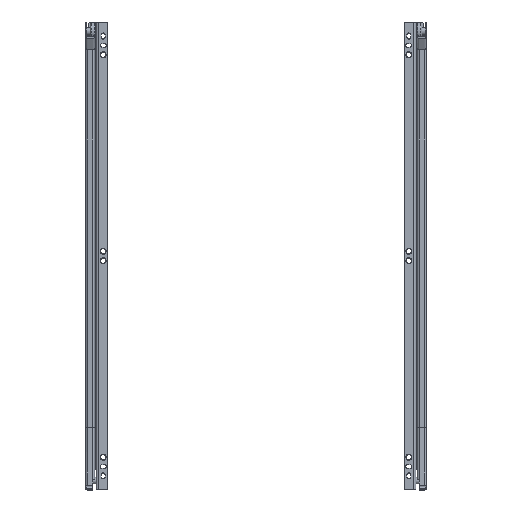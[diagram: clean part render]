
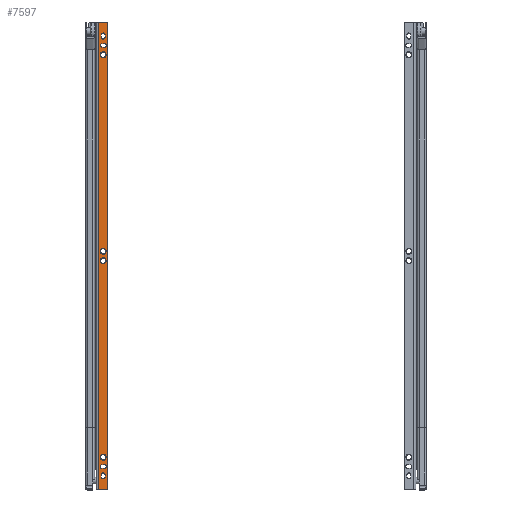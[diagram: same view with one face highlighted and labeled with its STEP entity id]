
A CAD part, front view. The second image highlights one B-rep face of the part: STEP entity #7597.
In plain terms, the highlighted planar face has unit normal (0, -1, 0.001).
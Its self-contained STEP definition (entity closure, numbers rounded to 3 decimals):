
#682=LINE('',#12514,#1212);
#683=LINE('',#12516,#1213);
#684=LINE('',#12518,#1214);
#685=LINE('',#12521,#1215);
#686=LINE('',#12530,#1216);
#687=LINE('',#12533,#1217);
#688=LINE('',#12538,#1218);
#689=LINE('',#12541,#1219);
#690=LINE('',#12546,#1220);
#691=LINE('',#12549,#1221);
#692=LINE('',#12554,#1222);
#693=LINE('',#12557,#1223);
#1212=VECTOR('',#10201,8.);
#1213=VECTOR('',#10202,500.);
#1214=VECTOR('',#10203,8.);
#1215=VECTOR('',#10206,496.);
#1216=VECTOR('',#10213,2.5);
#1217=VECTOR('',#10216,2.5);
#1218=VECTOR('',#10219,2.7);
#1219=VECTOR('',#10222,2.7);
#1220=VECTOR('',#10225,2.5);
#1221=VECTOR('',#10228,2.5);
#1222=VECTOR('',#10231,2.5);
#1223=VECTOR('',#10234,2.5);
#1478=PLANE('',#8341);
#1672=FACE_BOUND('',#2633,.T.);
#1673=FACE_BOUND('',#2634,.T.);
#1674=FACE_BOUND('',#2635,.T.);
#1675=FACE_BOUND('',#2636,.T.);
#1676=FACE_BOUND('',#2637,.T.);
#1677=FACE_BOUND('',#2638,.T.);
#1678=FACE_BOUND('',#2639,.T.);
#1679=FACE_BOUND('',#2640,.T.);
#2057=FACE_OUTER_BOUND('',#2632,.T.);
#2632=EDGE_LOOP('',(#6221,#6222,#6223,#6224,#6225,#6226));
#2633=EDGE_LOOP('',(#6227));
#2634=EDGE_LOOP('',(#6228));
#2635=EDGE_LOOP('',(#6229,#6230,#6231,#6232));
#2636=EDGE_LOOP('',(#6233,#6234,#6235,#6236));
#2637=EDGE_LOOP('',(#6237,#6238,#6239,#6240));
#2638=EDGE_LOOP('',(#6241,#6242,#6243,#6244));
#2639=EDGE_LOOP('',(#6245));
#2640=EDGE_LOOP('',(#6246));
#3117=CIRCLE('',#8340,3.2);
#3118=CIRCLE('',#8342,2.);
#3119=CIRCLE('',#8343,2.);
#3120=CIRCLE('',#8344,3.2);
#3121=CIRCLE('',#8345,3.2);
#3122=CIRCLE('',#8346,2.);
#3123=CIRCLE('',#8347,2.);
#3124=CIRCLE('',#8348,1.9);
#3125=CIRCLE('',#8349,1.9);
#3126=CIRCLE('',#8350,2.);
#3127=CIRCLE('',#8351,2.);
#3128=CIRCLE('',#8352,2.);
#3129=CIRCLE('',#8353,2.);
#3130=CIRCLE('',#8354,3.2);
#3688=VERTEX_POINT('',#12507);
#3689=VERTEX_POINT('',#12510);
#3690=VERTEX_POINT('',#12511);
#3691=VERTEX_POINT('',#12513);
#3692=VERTEX_POINT('',#12515);
#3693=VERTEX_POINT('',#12517);
#3694=VERTEX_POINT('',#12519);
#3695=VERTEX_POINT('',#12522);
#3696=VERTEX_POINT('',#12524);
#3697=VERTEX_POINT('',#12526);
#3698=VERTEX_POINT('',#12527);
#3699=VERTEX_POINT('',#12529);
#3700=VERTEX_POINT('',#12531);
#3701=VERTEX_POINT('',#12534);
#3702=VERTEX_POINT('',#12535);
#3703=VERTEX_POINT('',#12537);
#3704=VERTEX_POINT('',#12539);
#3705=VERTEX_POINT('',#12542);
#3706=VERTEX_POINT('',#12543);
#3707=VERTEX_POINT('',#12545);
#3708=VERTEX_POINT('',#12547);
#3709=VERTEX_POINT('',#12550);
#3710=VERTEX_POINT('',#12551);
#3711=VERTEX_POINT('',#12553);
#3712=VERTEX_POINT('',#12555);
#3713=VERTEX_POINT('',#12558);
#4576=EDGE_CURVE('',#3688,#3688,#3117,.T.);
#4577=EDGE_CURVE('',#3689,#3690,#3118,.T.);
#4578=EDGE_CURVE('',#3691,#3689,#682,.T.);
#4579=EDGE_CURVE('',#3692,#3691,#683,.T.);
#4580=EDGE_CURVE('',#3692,#3693,#684,.T.);
#4581=EDGE_CURVE('',#3694,#3693,#3119,.T.);
#4582=EDGE_CURVE('',#3694,#3690,#685,.T.);
#4583=EDGE_CURVE('',#3695,#3695,#3120,.T.);
#4584=EDGE_CURVE('',#3696,#3696,#3121,.T.);
#4585=EDGE_CURVE('',#3697,#3698,#3122,.T.);
#4586=EDGE_CURVE('',#3698,#3699,#686,.T.);
#4587=EDGE_CURVE('',#3699,#3700,#3123,.T.);
#4588=EDGE_CURVE('',#3700,#3697,#687,.T.);
#4589=EDGE_CURVE('',#3701,#3702,#3124,.T.);
#4590=EDGE_CURVE('',#3702,#3703,#688,.T.);
#4591=EDGE_CURVE('',#3703,#3704,#3125,.T.);
#4592=EDGE_CURVE('',#3704,#3701,#689,.T.);
#4593=EDGE_CURVE('',#3705,#3706,#3126,.T.);
#4594=EDGE_CURVE('',#3706,#3707,#690,.T.);
#4595=EDGE_CURVE('',#3707,#3708,#3127,.T.);
#4596=EDGE_CURVE('',#3708,#3705,#691,.T.);
#4597=EDGE_CURVE('',#3709,#3710,#3128,.T.);
#4598=EDGE_CURVE('',#3710,#3711,#692,.T.);
#4599=EDGE_CURVE('',#3711,#3712,#3129,.T.);
#4600=EDGE_CURVE('',#3712,#3709,#693,.T.);
#4601=EDGE_CURVE('',#3713,#3713,#3130,.T.);
#6221=ORIENTED_EDGE('',*,*,#4577,.F.);
#6222=ORIENTED_EDGE('',*,*,#4578,.F.);
#6223=ORIENTED_EDGE('',*,*,#4579,.F.);
#6224=ORIENTED_EDGE('',*,*,#4580,.T.);
#6225=ORIENTED_EDGE('',*,*,#4581,.F.);
#6226=ORIENTED_EDGE('',*,*,#4582,.T.);
#6227=ORIENTED_EDGE('',*,*,#4583,.F.);
#6228=ORIENTED_EDGE('',*,*,#4584,.F.);
#6229=ORIENTED_EDGE('',*,*,#4585,.T.);
#6230=ORIENTED_EDGE('',*,*,#4586,.T.);
#6231=ORIENTED_EDGE('',*,*,#4587,.T.);
#6232=ORIENTED_EDGE('',*,*,#4588,.T.);
#6233=ORIENTED_EDGE('',*,*,#4589,.T.);
#6234=ORIENTED_EDGE('',*,*,#4590,.T.);
#6235=ORIENTED_EDGE('',*,*,#4591,.T.);
#6236=ORIENTED_EDGE('',*,*,#4592,.T.);
#6237=ORIENTED_EDGE('',*,*,#4593,.T.);
#6238=ORIENTED_EDGE('',*,*,#4594,.T.);
#6239=ORIENTED_EDGE('',*,*,#4595,.T.);
#6240=ORIENTED_EDGE('',*,*,#4596,.T.);
#6241=ORIENTED_EDGE('',*,*,#4597,.T.);
#6242=ORIENTED_EDGE('',*,*,#4598,.T.);
#6243=ORIENTED_EDGE('',*,*,#4599,.T.);
#6244=ORIENTED_EDGE('',*,*,#4600,.T.);
#6245=ORIENTED_EDGE('',*,*,#4601,.F.);
#6246=ORIENTED_EDGE('',*,*,#4576,.F.);
#7597=ADVANCED_FACE('',(#2057,#1672,#1673,#1674,#1675,#1676,#1677,#1678,
#1679),#1478,.T.);
#8340=AXIS2_PLACEMENT_3D('',#12508,#10195,#10196);
#8341=AXIS2_PLACEMENT_3D('',#12509,#10197,#10198);
#8342=AXIS2_PLACEMENT_3D('',#12512,#10199,#10200);
#8343=AXIS2_PLACEMENT_3D('',#12520,#10204,#10205);
#8344=AXIS2_PLACEMENT_3D('',#12523,#10207,#10208);
#8345=AXIS2_PLACEMENT_3D('',#12525,#10209,#10210);
#8346=AXIS2_PLACEMENT_3D('',#12528,#10211,#10212);
#8347=AXIS2_PLACEMENT_3D('',#12532,#10214,#10215);
#8348=AXIS2_PLACEMENT_3D('',#12536,#10217,#10218);
#8349=AXIS2_PLACEMENT_3D('',#12540,#10220,#10221);
#8350=AXIS2_PLACEMENT_3D('',#12544,#10223,#10224);
#8351=AXIS2_PLACEMENT_3D('',#12548,#10226,#10227);
#8352=AXIS2_PLACEMENT_3D('',#12552,#10229,#10230);
#8353=AXIS2_PLACEMENT_3D('',#12556,#10232,#10233);
#8354=AXIS2_PLACEMENT_3D('',#12559,#10235,#10236);
#10195=DIRECTION('center_axis',(0.,-1.,0.));
#10196=DIRECTION('ref_axis',(-1.,0.,0.));
#10197=DIRECTION('center_axis',(0.,-1.,0.));
#10198=DIRECTION('ref_axis',(1.,0.,0.));
#10199=DIRECTION('center_axis',(0.,1.,0.));
#10200=DIRECTION('ref_axis',(-0.707,0.,0.707));
#10201=DIRECTION('',(0.,0.,1.));
#10202=DIRECTION('',(-1.,0.,0.));
#10203=DIRECTION('',(0.,0.,1.));
#10204=DIRECTION('center_axis',(0.,1.,0.));
#10205=DIRECTION('ref_axis',(0.707,0.,0.707));
#10206=DIRECTION('',(-1.,0.,0.));
#10207=DIRECTION('center_axis',(0.,-1.,0.));
#10208=DIRECTION('ref_axis',(-1.,0.,0.));
#10209=DIRECTION('center_axis',(0.,-1.,0.));
#10210=DIRECTION('ref_axis',(-1.,0.,0.));
#10211=DIRECTION('center_axis',(0.,1.,0.));
#10212=DIRECTION('ref_axis',(0.,0.,1.));
#10213=DIRECTION('',(-1.,0.,0.));
#10214=DIRECTION('center_axis',(0.,1.,0.));
#10215=DIRECTION('ref_axis',(0.,0.,-1.));
#10216=DIRECTION('',(1.,0.,0.));
#10217=DIRECTION('center_axis',(0.,1.,0.));
#10218=DIRECTION('ref_axis',(1.,0.,0.));
#10219=DIRECTION('',(0.,0.,1.));
#10220=DIRECTION('center_axis',(0.,1.,0.));
#10221=DIRECTION('ref_axis',(-1.,0.,0.));
#10222=DIRECTION('',(0.,0.,-1.));
#10223=DIRECTION('center_axis',(0.,1.,0.));
#10224=DIRECTION('ref_axis',(1.,0.,0.));
#10225=DIRECTION('',(0.,0.,1.));
#10226=DIRECTION('center_axis',(0.,1.,0.));
#10227=DIRECTION('ref_axis',(-1.,0.,0.));
#10228=DIRECTION('',(0.,0.,-1.));
#10229=DIRECTION('center_axis',(0.,1.,0.));
#10230=DIRECTION('ref_axis',(0.,0.,1.));
#10231=DIRECTION('',(-1.,0.,0.));
#10232=DIRECTION('center_axis',(0.,1.,0.));
#10233=DIRECTION('ref_axis',(0.,0.,-1.));
#10234=DIRECTION('',(1.,0.,0.));
#10235=DIRECTION('center_axis',(0.,-1.,0.));
#10236=DIRECTION('ref_axis',(-1.,0.,0.));
#12507=CARTESIAN_POINT('',(-21.8,-12.,7.4));
#12508=CARTESIAN_POINT('Origin',(-25.,-12.,7.4));
#12509=CARTESIAN_POINT('Origin',(-490.,-12.,0.));
#12510=CARTESIAN_POINT('',(-490.,-12.,10.));
#12511=CARTESIAN_POINT('',(-488.,-12.,12.));
#12512=CARTESIAN_POINT('Origin',(-488.,-12.,10.));
#12513=CARTESIAN_POINT('',(-490.,-12.,2.));
#12514=CARTESIAN_POINT('',(-490.,-12.,0.));
#12515=CARTESIAN_POINT('',(10.,-12.,2.));
#12516=CARTESIAN_POINT('',(-364.609,-12.,2.));
#12517=CARTESIAN_POINT('',(10.,-12.,10.));
#12518=CARTESIAN_POINT('',(10.,-12.,0.));
#12519=CARTESIAN_POINT('',(8.,-12.,12.));
#12520=CARTESIAN_POINT('Origin',(8.,-12.,10.));
#12521=CARTESIAN_POINT('',(10.,-12.,12.));
#12522=CARTESIAN_POINT('',(-231.8,-12.,7.4));
#12523=CARTESIAN_POINT('Origin',(-235.,-12.,7.4));
#12524=CARTESIAN_POINT('',(-451.8,-12.,7.4));
#12525=CARTESIAN_POINT('Origin',(-455.,-12.,7.4));
#12526=CARTESIAN_POINT('',(-473.75,-12.,9.4));
#12527=CARTESIAN_POINT('',(-473.75,-12.,5.4));
#12528=CARTESIAN_POINT('Origin',(-473.75,-12.,7.4));
#12529=CARTESIAN_POINT('',(-476.25,-12.,5.4));
#12530=CARTESIAN_POINT('',(-483.125,-12.,5.4));
#12531=CARTESIAN_POINT('',(-476.25,-12.,9.4));
#12532=CARTESIAN_POINT('Origin',(-476.25,-12.,7.4));
#12533=CARTESIAN_POINT('',(-481.875,-12.,9.4));
#12534=CARTESIAN_POINT('',(-463.1,-12.,6.05));
#12535=CARTESIAN_POINT('',(-466.9,-12.,6.05));
#12536=CARTESIAN_POINT('Origin',(-465.,-12.,6.05));
#12537=CARTESIAN_POINT('',(-466.9,-12.,8.75));
#12538=CARTESIAN_POINT('',(-466.9,-12.,4.375));
#12539=CARTESIAN_POINT('',(-463.1,-12.,8.75));
#12540=CARTESIAN_POINT('Origin',(-465.,-12.,8.75));
#12541=CARTESIAN_POINT('',(-463.1,-12.,3.025));
#12542=CARTESIAN_POINT('',(-13.,-12.,6.15));
#12543=CARTESIAN_POINT('',(-17.,-12.,6.15));
#12544=CARTESIAN_POINT('Origin',(-15.,-12.,6.15));
#12545=CARTESIAN_POINT('',(-17.,-12.,8.65));
#12546=CARTESIAN_POINT('',(-17.,-12.,4.325));
#12547=CARTESIAN_POINT('',(-13.,-12.,8.65));
#12548=CARTESIAN_POINT('Origin',(-15.,-12.,8.65));
#12549=CARTESIAN_POINT('',(-13.,-12.,3.075));
#12550=CARTESIAN_POINT('',(-3.75,-12.,9.4));
#12551=CARTESIAN_POINT('',(-3.75,-12.,5.4));
#12552=CARTESIAN_POINT('Origin',(-3.75,-12.,7.4));
#12553=CARTESIAN_POINT('',(-6.25,-12.,5.4));
#12554=CARTESIAN_POINT('',(-248.125,-12.,5.4));
#12555=CARTESIAN_POINT('',(-6.25,-12.,9.4));
#12556=CARTESIAN_POINT('Origin',(-6.25,-12.,7.4));
#12557=CARTESIAN_POINT('',(-246.875,-12.,9.4));
#12558=CARTESIAN_POINT('',(-241.8,-12.,7.4));
#12559=CARTESIAN_POINT('Origin',(-245.,-12.,7.4));
